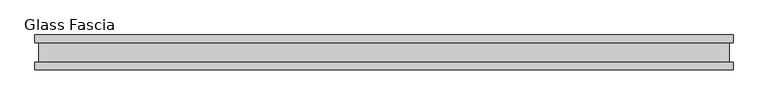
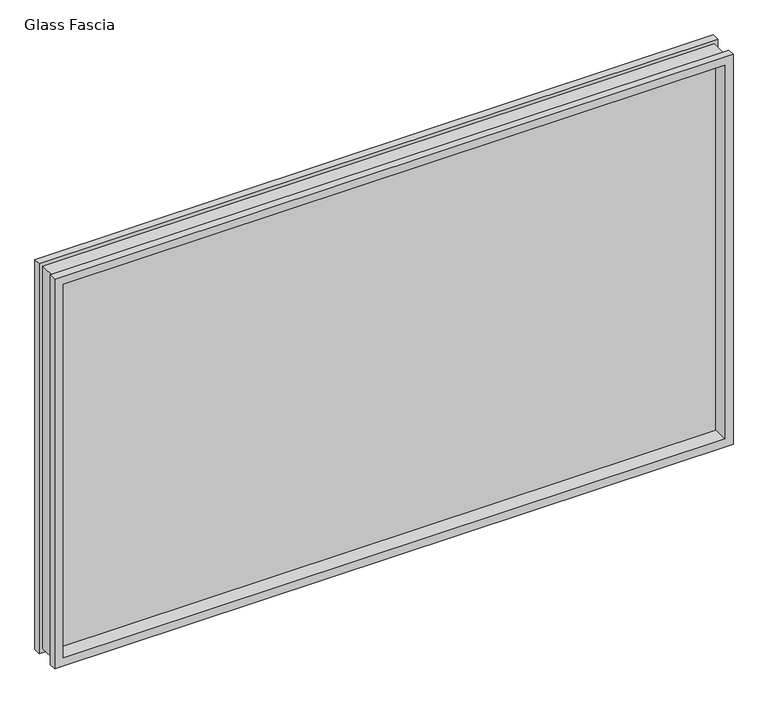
"""IFC4 building model written with IfcOpenShell, lengths in millimetres: proxy geometry, Panel-Fascia-Teknion-Altos-Glass : Glass Fascia."""

import ifcopenshell
import ifcopenshell.guid

model = None  # the IFC model being written
_history = None  # IfcOwnerHistory: only IFC2X3 demands one
_inside = {}  # id of a spatial element -> (the spatial element, [elements in it])
_under = {}  # id of a project, library or spatial element -> (it, [spatial elements below it])
_declared = {}  # id of a project -> (the project, [libraries it declares])
_typed = {}  # id of a type object -> (the type object, [elements of that type])
_made_of = {}  # id of a material, layer set ... -> (it, [elements and type objects made of it])


def new_model(schema):
    """Start an empty IFC model of exactly this schema.

    Asked for "IFC4X3", IfcOpenShell would pick the latest addendum, in which some entities
    have other attributes; the version numbers below select the first issue.
    IFC2X3 requires an IfcOwnerHistory on every rooted entity: one is made here for all.
    """
    global model, _history
    if schema == "IFC4X3":
        model = ifcopenshell.file(schema_version=(4, 3, 0, 0))
    else:
        model = ifcopenshell.file(schema=schema)
    _inside.clear()
    _under.clear()
    _declared.clear()
    _typed.clear()
    _made_of.clear()
    _history = None
    if model.schema == "IFC2X3":
        org = make("IfcOrganization", Name="unknown")
        user = make(
            "IfcPersonAndOrganization",
            ThePerson=make("IfcPerson", FamilyName="unknown"),
            TheOrganization=org,
        )
        app = make(
            "IfcApplication",
            ApplicationDeveloper=org,
            Version="unknown",
            ApplicationFullName="unknown",
            ApplicationIdentifier="unknown",
        )
        _history = make(
            "IfcOwnerHistory",
            OwningUser=user,
            OwningApplication=app,
            ChangeAction="ADDED",
            CreationDate=0,
        )
    return model


def make(cls, **values):
    """One entity of the class cls with the attributes given. An attribute that is None is left unset."""
    return model.create_entity(
        cls, **{name: value for name, value in values.items() if value is not None}
    )


def rooted(cls, **values):
    """An entity with a GlobalId (a new one), such as an element, a storey or a relation."""
    return make(cls, GlobalId=ifcopenshell.guid.new(), OwnerHistory=_history, **values)


def si_unit(unit_type, name, prefix=None):
    """IfcSIUnit, for example si_unit("LENGTHUNIT", "METRE", prefix="MILLI")."""
    return make("IfcSIUnit", UnitType=unit_type, Prefix=prefix, Name=name)


def assignment(units):
    """IfcUnitAssignment: the units of a project."""
    return None if units is None else make("IfcUnitAssignment", Units=units)


def point(xyz):
    """IfcCartesianPoint."""
    return None if xyz is None else make("IfcCartesianPoint", Coordinates=xyz)


def direction(xyz):
    """IfcDirection."""
    return None if xyz is None else make("IfcDirection", DirectionRatios=xyz)


def frame(location, z_axis=None, x_axis=None):
    """IfcAxis2Placement3D, a coordinate frame: its origin and axes. An axis left out is left unset."""
    return make(
        "IfcAxis2Placement3D",
        Location=point(location),
        Axis=direction(z_axis),
        RefDirection=direction(x_axis),
    )


def origin():
    """The frame at (0, 0, 0) with its axes left unset."""
    return frame((0.0, 0.0, 0.0))


def place(relative_to, where):
    """IfcLocalPlacement: puts the frame where relative to a parent placement (None: the world)."""
    return make(
        "IfcLocalPlacement", PlacementRelTo=relative_to, RelativePlacement=where
    )


def context(
    kind, dimensions, precision=None, world=None, true_north=None, identifier=None
):
    """IfcGeometricRepresentationContext, for example the 3D "Model" context."""
    return make(
        "IfcGeometricRepresentationContext",
        ContextIdentifier=identifier,
        ContextType=kind,
        CoordinateSpaceDimension=dimensions,
        Precision=precision,
        WorldCoordinateSystem=world,
        TrueNorth=true_north,
    )


def project(units=None, contexts=None):
    """IfcProject with its units and contexts."""
    return rooted(
        "IfcProject",
        Name="project",
        RepresentationContexts=contexts,
        UnitsInContext=assignment(units),
    )


def spatial(cls, under=None, at=None, **own):
    """A site, building, storey or space (cls), placed at a placement, below another one or the project."""
    s = rooted(cls, ObjectPlacement=at, **own)
    if under is not None:
        _under.setdefault(under.id(), (under, []))[1].append(s)
    return s


def polyline(points):
    """IfcPolyline through the points."""
    return make("IfcPolyline", Points=[point(p) for p in points])


def outline(outer, holes=None, kind="AREA"):
    """IfcArbitraryClosedProfileDef: a profile drawn as a closed curve; with holes, ...WithVoids."""
    if holes is None:
        return make("IfcArbitraryClosedProfileDef", ProfileType=kind, OuterCurve=outer)
    return make(
        "IfcArbitraryProfileDefWithVoids",
        ProfileType=kind,
        OuterCurve=outer,
        InnerCurves=holes,
    )


def extrude(swept, where, along, depth):
    """IfcExtrudedAreaSolid: the profile swept, set in the frame where, extruded along a direction by depth."""
    return make(
        "IfcExtrudedAreaSolid",
        SweptArea=swept,
        Position=where,
        ExtrudedDirection=direction(along),
        Depth=depth,
    )


def faces_of(points, faces, orient=None, outer=None):
    """IfcFace entities. A face is a list of loops; a loop is a list of indices into points, from 0.

    orient and outer hold one flag for each loop. By default every Orientation is true, the
    first loop of a face is its IfcFaceOuterBound and the others are IfcFaceBound.
    """
    made = []
    for i, loops in enumerate(faces):
        bounds = []
        for j, loop in enumerate(loops):
            is_outer = j == 0 if outer is None else outer[i][j]
            bounds.append(
                make(
                    "IfcFaceOuterBound" if is_outer else "IfcFaceBound",
                    Bound=make("IfcPolyLoop", Polygon=[points[k] for k in loop]),
                    Orientation=True if orient is None else orient[i][j],
                )
            )
        made.append(make("IfcFace", Bounds=bounds))
    return made


def faceted_brep(points, faces, orient=None, outer=None, voids=None):
    """IfcFacetedBrep: a solid bounded by flat faces; with voids (closed shells), ...WithVoids."""
    shared = [point(p) for p in points]
    hull = make("IfcClosedShell", CfsFaces=faces_of(shared, faces, orient, outer))
    if voids is None:
        return make("IfcFacetedBrep", Outer=hull)
    return make(
        "IfcFacetedBrepWithVoids",
        Outer=hull,
        Voids=[
            make(cls, CfsFaces=faces_of(shared, fs, o, b)) for cls, fs, o, b in voids
        ],
    )


def shape(context_of_items, identifier, shape_type, items):
    """IfcShapeRepresentation: the items that make up one representation, for example the "Body"."""
    return make(
        "IfcShapeRepresentation",
        ContextOfItems=context_of_items,
        RepresentationIdentifier=identifier,
        RepresentationType=shape_type,
        Items=items,
    )


def source(mapping_origin, context_of_items, identifier, shape_type, items):
    """IfcRepresentationMap: a shape defined once, which mapped items show again and again."""
    return make(
        "IfcRepresentationMap",
        MappingOrigin=mapping_origin,
        MappedRepresentation=shape(context_of_items, identifier, shape_type, items),
    )


def transform(
    local_origin,
    x_axis=None,
    y_axis=None,
    z_axis=None,
    scale=None,
    scale2=None,
    scale3=None,
    uniform=True,
):
    """IfcCartesianTransformationOperator3D, or its non-uniform kind. x_axis, y_axis, z_axis: its Axis1, 2, 3."""
    if uniform:
        return make(
            "IfcCartesianTransformationOperator3D",
            Axis1=direction(x_axis),
            Axis2=direction(y_axis),
            LocalOrigin=point(local_origin),
            Scale=scale,
            Axis3=direction(z_axis),
        )
    return make(
        "IfcCartesianTransformationOperator3DnonUniform",
        Axis1=direction(x_axis),
        Axis2=direction(y_axis),
        LocalOrigin=point(local_origin),
        Scale=scale,
        Axis3=direction(z_axis),
        Scale2=scale2,
        Scale3=scale3,
    )


def mapped(mapping_source, mapping_target):
    """IfcMappedItem: shows the shape of a source again, moved by a transform."""
    return make(
        "IfcMappedItem", MappingSource=mapping_source, MappingTarget=mapping_target
    )


def made_of(thing, what):
    """Note that an element or type object is made of a material, layer set ...; save() writes the relation."""
    if what is not None:
        _made_of.setdefault(what.id(), (what, []))[1].append(thing)
    return thing


def element(
    cls,
    number,
    at=None,
    inside=None,
    cuts=None,
    type_object=None,
    material=None,
    context=None,
    identifier="Body",
    shape_type=None,
    held_by="IfcProductDefinitionShape",
    body=None,
    shapes=None,
    **own,
):
    """One element of the class cls, such as IfcWall. Its Tag is "e" and its number.

    at: its placement. inside: the storey or other place that contains it. cuts: it is an
    opening in that element (IfcRelVoidsElement). A single representation is given by context,
    identifier, shape_type and body (its items); several are given by shapes. held_by: the class
    of the entity that holds the representations. save() writes the other relations.
    """
    e = rooted(cls, Tag="e%d" % number, ObjectPlacement=at, **own)
    if body is not None:
        shapes = [shape(context, identifier, shape_type, body)]
    if shapes is not None:
        e.Representation = make(held_by, Representations=shapes)
    if inside is not None:
        _inside.setdefault(inside.id(), (inside, []))[1].append(e)
    if cuts is not None:
        rooted(
            "IfcRelVoidsElement", RelatingBuildingElement=cuts, RelatedOpeningElement=e
        )
    if type_object is not None:
        _typed.setdefault(type_object.id(), (type_object, []))[1].append(e)
    return made_of(e, material)


def aggregate(whole, parts):
    """IfcRelAggregates: a whole, such as a stair, and the parts it consists of."""
    return rooted("IfcRelAggregates", RelatingObject=whole, RelatedObjects=parts)


def save(model, path):
    """Write the relations noted so far, then the file.

    IfcRelAggregates (storeys below a building ...), IfcRelContainedInSpatialStructure (elements
    in a storey), IfcRelDefinesByType, IfcRelAssociatesMaterial and IfcRelDeclares: one each for
    every whole, place, type object, material and project.
    """
    for whole, parts in _under.values():
        aggregate(whole, parts)
    for where, things in _inside.values():
        rooted(
            "IfcRelContainedInSpatialStructure",
            RelatedElements=things,
            RelatingStructure=where,
        )
    for kind, things in _typed.values():
        rooted("IfcRelDefinesByType", RelatedObjects=things, RelatingType=kind)
    for what, things in _made_of.values():
        rooted("IfcRelAssociatesMaterial", RelatedObjects=things, RelatingMaterial=what)
    for by, libraries in _declared.values():
        rooted("IfcRelDeclares", RelatingContext=by, RelatedDefinitions=libraries)
    model.write(path)


def glass_fascia_9be81d33(model_context):
    return source(origin(), model_context, "Body", "SolidModel", [
        faceted_brep([(984.4096781, -5.0827449, 1201.5625243), (984.4096781, 5.0827449, 1201.5625243), (984.4096781, 5.0827449, 17.6374757), (984.4096781, -5.0827449, 17.6374757), (998.8721539, -28.8801202, 1216.025), (998.8721539, -50.0558594, 1216.025), (998.8721539, -50.0558594, 3.175), (998.8721539, -28.8801202, 3.175), (988.0471539, 28.2698798, 1205.2000001), (988.0471539, -28.8801202, 1205.2000001), (988.0471539, -28.8801202, 13.9999999), (988.0471539, 28.2698798, 13.9999999), (998.8721539, 50.0558594, 1216.025), (998.8721539, 28.2698798, 1216.025), (998.8721539, 28.2698798, 3.175), (998.8721539, 50.0558594, 3.175), (-984.4096781, 5.0827449, 17.6374757), (-984.4096781, -5.0827449, 17.6374757), (-998.8721539, -50.0558594, 3.175), (-998.8721539, -28.8801202, 3.175), (-988.0471539, -28.8801202, 13.9999999), (-988.0471539, 28.2698798, 13.9999999), (-998.8721539, 28.2698798, 3.175), (-998.8721539, 50.0558594, 3.175), (-984.4096781, 5.0827449, 1201.5625243), (-984.4096781, -5.0827449, 1201.5625243), (-998.8721539, -50.0558594, 1216.025), (-998.8721539, -28.8801202, 1216.025), (-988.0471539, -28.8801202, 1205.2000001), (-988.0471539, 28.2698798, 1205.2000001), (-998.8721539, 28.2698798, 1216.025), (-998.8721539, 50.0558594, 1216.025), (973.919487, 50.0558594, 1191.0723332), (-973.919487, 50.0558594, 1191.0723332), (-973.919487, 50.0558594, 28.1276668), (973.919487, 50.0558594, 28.1276668), (973.919487, 5.0827449, 28.1276668), (-973.919487, 5.0827449, 28.1276668), (-973.919487, 5.0827449, 1191.0723332), (973.919487, 5.0827449, 1191.0723332), (973.919487, -5.0827449, 1191.0723332), (-973.919487, -5.0827449, 1191.0723332), (-973.919487, -5.0827449, 28.1276668), (973.919487, -5.0827449, 28.1276668), (973.919487, -50.0558594, 28.1276668), (-973.919487, -50.0558594, 28.1276668), (-973.919487, -50.0558594, 1191.0723332), (973.919487, -50.0558594, 1191.0723332)], [[[0, 1, 2, 3]], [[4, 5, 6, 7]], [[8, 9, 10, 11]], [[12, 13, 14, 15]], [[3, 2, 16, 17]], [[7, 6, 18, 19]], [[11, 10, 20, 21]], [[15, 14, 22, 23]], [[17, 16, 24, 25]], [[19, 18, 26, 27]], [[21, 20, 28, 29]], [[23, 22, 30, 31]], [[15, 23, 31, 12], [32, 33, 34, 35]], [[1, 24, 16, 2], [36, 37, 38, 39]], [[25, 24, 1, 0]], [[3, 17, 25, 0], [40, 41, 42, 43]], [[5, 26, 18, 6], [44, 45, 46, 47]], [[27, 26, 5, 4]], [[7, 19, 27, 4], [9, 28, 20, 10]], [[29, 28, 9, 8]], [[13, 30, 22, 14], [11, 21, 29, 8]], [[31, 30, 13, 12]], [[39, 32, 35, 36]], [[47, 40, 43, 44]], [[36, 35, 34, 37]], [[44, 43, 42, 45]], [[37, 34, 33, 38]], [[45, 42, 41, 46]], [[38, 33, 32, 39]], [[46, 41, 40, 47]]]),
        extrude(outline(polyline([(984.4096781, 2.9765625), (984.4096781, -2.9765625), (-984.4096781, -2.9765625), (-984.4096781, 2.9765625), (984.4096781, 2.9765625)])), frame((0.0, 0.0, 17.6374757), z_axis=(0.0, 0.0, 1.0), x_axis=(1.0, 0.0, 0.0)), (0.0, 0.0, 1.0), 1183.9250485),
    ])


if __name__ == "__main__":
    model = new_model("IFC4")
    model_context = context("Model", 3, world=origin())
    ifc_project = project(units=[si_unit("LENGTHUNIT", "METRE", prefix="MILLI")], contexts=[model_context])
    site = spatial("IfcSite", under=ifc_project)
    building = spatial("IfcBuilding", under=site)
    placement = place(None, origin())
    glass_fascia_shape = glass_fascia_9be81d33(model_context)
    element("IfcBuildingElementProxy", 1, Name="Panel-Fascia-Teknion-Altos-Glass : Glass Fascia", ObjectType="Panel-Fascia-Teknion-Altos-Glass : Glass Fascia", at=placement, inside=building, context=model_context, shape_type="MappedRepresentation", body=[
        mapped(glass_fascia_shape, transform((0.0, 0.0, 0.0), x_axis=(1.0, 0.0, 0.0), y_axis=(0.0, 1.0, 0.0), z_axis=(0.0, 0.0, 1.0))),
    ])
    save(model, "model.ifc")
